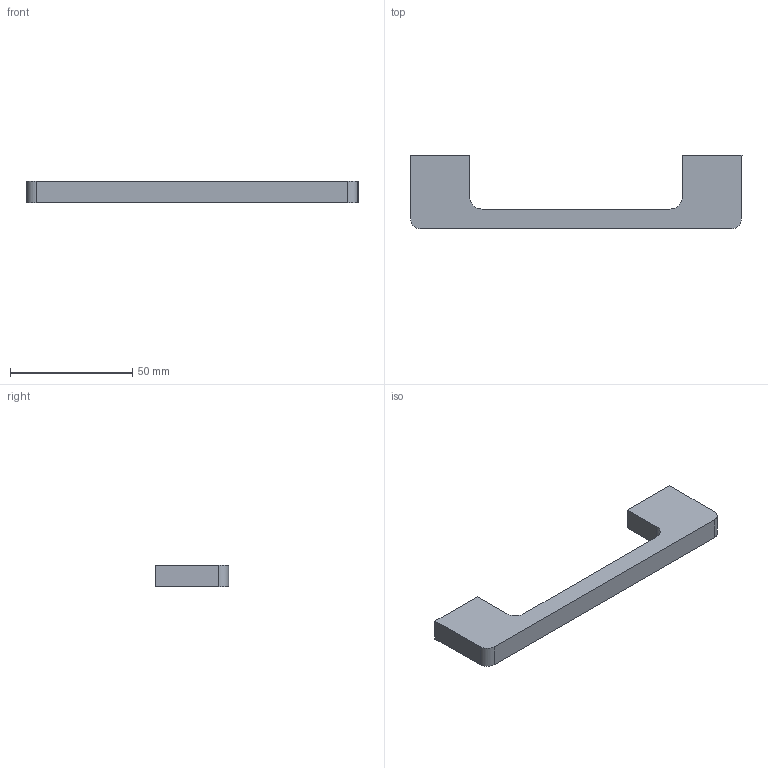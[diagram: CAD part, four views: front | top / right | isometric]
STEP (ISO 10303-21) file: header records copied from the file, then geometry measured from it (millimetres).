
FILE_DESCRIPTION( ( '' ), '1' );
FILE_NAME( 'D:/1.AUTOCAD EXPORT/Group 10/sheet_10_1/115071.stp', '2013-10-22T04:30:58', ( '' ), ( '' ), ' ', ' ', ' ' );
FILE_SCHEMA( ( 'automotive_design' ) );
Length unit declared in the file: millimetre
Products named in the file (1): 1
Bounding box: 136 x 30 x 9 mm (x, y, z)
Volume: 19057.2 mm3; surface area: 8036.8 mm2
Topology: 1 solids, 1 shells, 26 faces, 60 edges, 40 vertices
Faces by surface type: plane 14, cylinder 12
Entity records: 1480 total; most frequent: DIRECTION 138, STYLED_ITEM 127, PRESENTATION_STYLE_ASSIGNMENT 127, CARTESIAN_POINT 127, COLOUR_RGB 127, ORIENTED_EDGE 120, EDGE_CURVE 60, CURVE_STYLE 60
